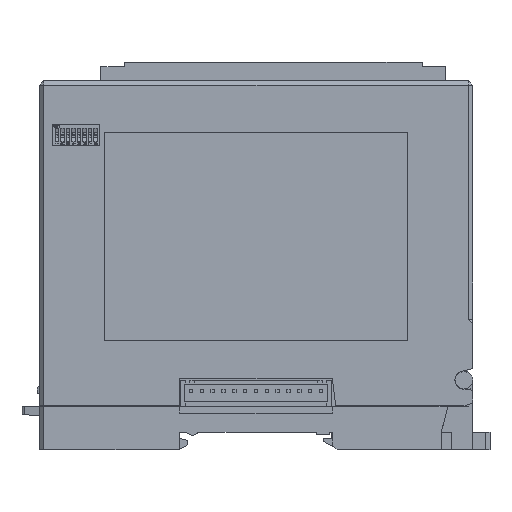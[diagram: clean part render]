
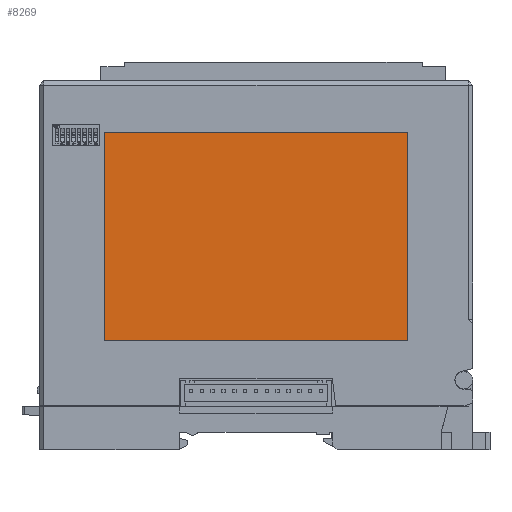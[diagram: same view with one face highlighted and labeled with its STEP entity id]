
A CAD part, left-side view. The second image highlights one B-rep face of the part: STEP entity #8269.
In plain terms, the highlighted planar face has unit normal (-1, 0, 0).
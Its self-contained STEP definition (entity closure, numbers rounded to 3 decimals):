
#1843 = VERTEX_POINT ( 'NONE', #28212 ) ;
#4575 = EDGE_CURVE ( 'NONE', #1843, #15590, #12016, .T. ) ;
#4822 = LINE ( 'NONE', #17653, #28581 ) ;
#5088 = DIRECTION ( 'NONE',  ( 1., 0., 0. ) ) ;
#5359 = DIRECTION ( 'NONE',  ( 0., 0., -1. ) ) ;
#5626 = PLANE ( 'NONE',  #7034 ) ;
#6851 = VERTEX_POINT ( 'NONE', #24171 ) ;
#7034 = AXIS2_PLACEMENT_3D ( 'NONE', #22374, #5088, #5359 ) ;
#8269 = ADVANCED_FACE ( 'NONE', ( #48105 ), #5626, .F. ) ;
#8350 = ORIENTED_EDGE ( 'NONE', *, *, #30017, .T. ) ;
#12016 = LINE ( 'NONE', #33504, #54919 ) ;
#12311 = ORIENTED_EDGE ( 'NONE', *, *, #48701, .T. ) ;
#15590 = VERTEX_POINT ( 'NONE', #31562 ) ;
#16346 = VECTOR ( 'NONE', #48443, 1000. ) ;
#17653 = CARTESIAN_POINT ( 'NONE',  ( -13.842, -35.068, 21.481 ) ) ;
#21010 = DIRECTION ( 'NONE',  ( 0., 0., 1. ) ) ;
#21052 = LINE ( 'NONE', #42559, #34243 ) ;
#22374 = CARTESIAN_POINT ( 'NONE',  ( -13.842, -0.068, 6.481 ) ) ;
#24044 = EDGE_CURVE ( 'NONE', #27794, #1843, #21052, .T. ) ;
#24171 = CARTESIAN_POINT ( 'NONE',  ( -13.842, -35.068, 21.481 ) ) ;
#27794 = VERTEX_POINT ( 'NONE', #46385 ) ;
#28212 = CARTESIAN_POINT ( 'NONE',  ( -13.842, 34.932, 69.481 ) ) ;
#28581 = VECTOR ( 'NONE', #21010, 1000. ) ;
#29306 = EDGE_LOOP ( 'NONE', ( #48290, #40500, #12311, #8350 ) ) ;
#30017 = EDGE_CURVE ( 'NONE', #6851, #27794, #4822, .T. ) ;
#31562 = CARTESIAN_POINT ( 'NONE',  ( -13.842, 34.932, 21.481 ) ) ;
#33227 = DIRECTION ( 'NONE',  ( 0., 0., -1. ) ) ;
#33504 = CARTESIAN_POINT ( 'NONE',  ( -13.842, 34.932, 21.481 ) ) ;
#34243 = VECTOR ( 'NONE', #42008, 1000. ) ;
#39205 = LINE ( 'NONE', #39485, #16346 ) ;
#39485 = CARTESIAN_POINT ( 'NONE',  ( -13.842, -35.068, 21.481 ) ) ;
#40500 = ORIENTED_EDGE ( 'NONE', *, *, #4575, .T. ) ;
#42008 = DIRECTION ( 'NONE',  ( 0., 1., 0. ) ) ;
#42559 = CARTESIAN_POINT ( 'NONE',  ( -13.842, -35.068, 69.481 ) ) ;
#46385 = CARTESIAN_POINT ( 'NONE',  ( -13.842, -35.068, 69.481 ) ) ;
#48105 = FACE_OUTER_BOUND ( 'NONE', #29306, .T. ) ;
#48290 = ORIENTED_EDGE ( 'NONE', *, *, #24044, .T. ) ;
#48443 = DIRECTION ( 'NONE',  ( 0., -1., 0. ) ) ;
#48701 = EDGE_CURVE ( 'NONE', #15590, #6851, #39205, .T. ) ;
#54919 = VECTOR ( 'NONE', #33227, 1000. ) ;
